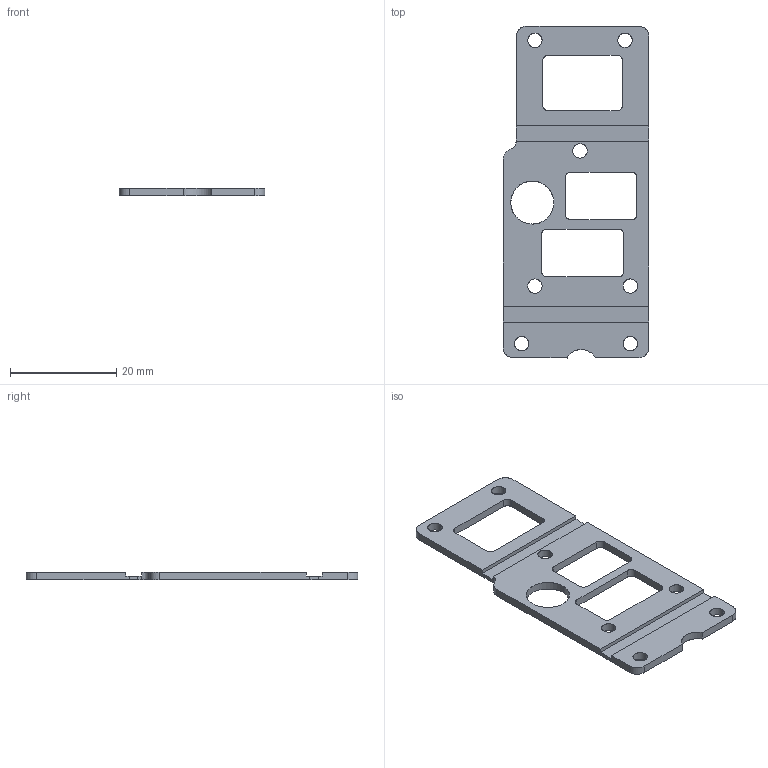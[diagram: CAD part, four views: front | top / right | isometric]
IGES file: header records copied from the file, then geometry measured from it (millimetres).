
Global section: file name: C:\Users\Knabe\Documents\Classes\8 Semester 8\DARwIn\Deliverables\DARwIn OP\DARwIn OP Part Files\CAD 2D\2D IGS\9L_PR13_B_BRKT_PELV_L.igs; native system: NX V7.0; preprocessor: SIEMENS PLM Software NX 7.0; date: 20110525.173102; units: millimetre
Bounding box: 27.5 x 62.63 x 1.5 mm (x, y, z)
Surface area: 2965.5 mm2 (no closed solid volume)
Topology: 0 solids, 0 shells, 76 faces, 562 edges, 577 vertices
Faces by surface type: bspline 76
